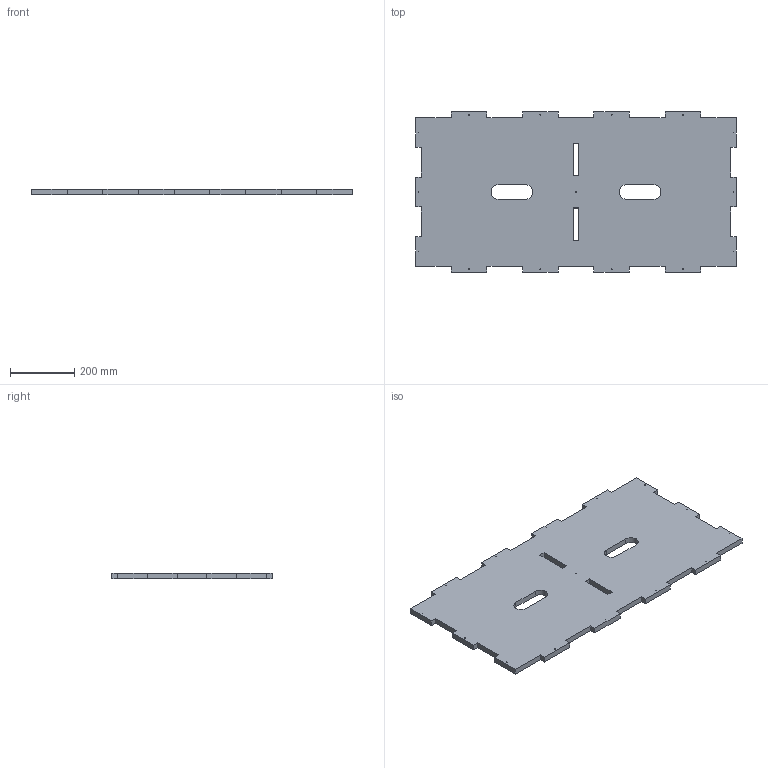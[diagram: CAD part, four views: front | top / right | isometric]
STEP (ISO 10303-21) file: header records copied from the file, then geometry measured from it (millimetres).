
FILE_DESCRIPTION(('Open CASCADE Model'),'2;1');
FILE_NAME('Open CASCADE Shape Model','2026-09-28T10:14:33',('Author'),( 'Open CASCADE'),'Open CASCADE STEP processor 7.9','Open CASCADE 7.9' ,'Unknown');
FILE_SCHEMA(('AUTOMOTIVE_DESIGN { 1 0 10303 214 1 1 1 1 }'));
Length unit declared in the file: millimetre
Products named in the file (1): Open CASCADE STEP translator 7.9 57
Bounding box: 1000 x 500 x 18 mm (x, y, z)
Volume: 8257799.3 mm3; surface area: 999868 mm2
Topology: 1 solids, 1 shells, 85 faces, 249 edges, 166 vertices
Faces by surface type: plane 66, cylinder 19
Full cylindrical faces by diameter (mm): 2.5 x15
Entity records: 6124 total; most frequent: CARTESIAN_POINT 999, DIRECTION 957, LINE 671, VECTOR 671, ORIENTED_EDGE 498, PCURVE 498, DEFINITIONAL_REPRESENTATION 498, EDGE_CURVE 249
